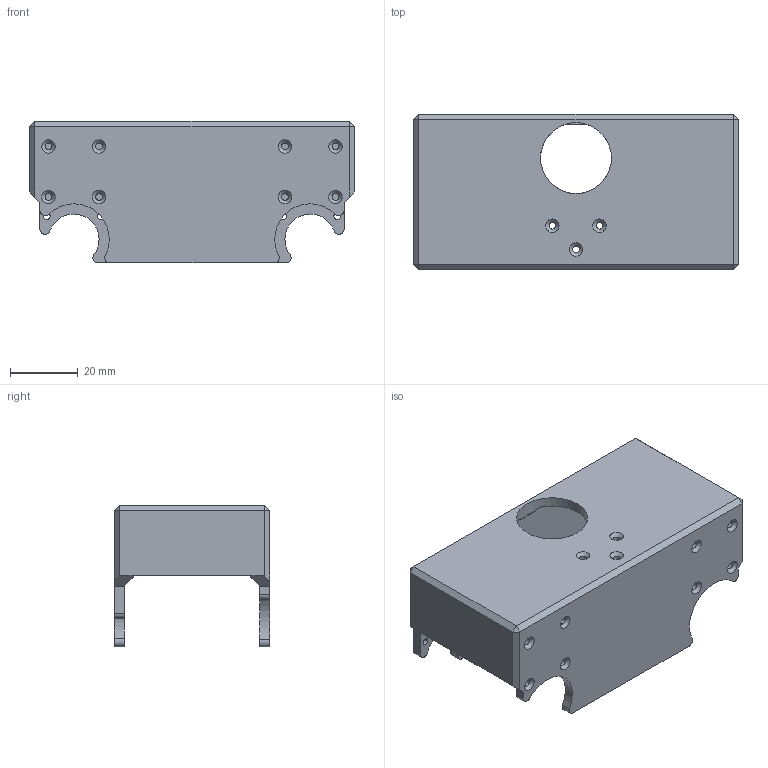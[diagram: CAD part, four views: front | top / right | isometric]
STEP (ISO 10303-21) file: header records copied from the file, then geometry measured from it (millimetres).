
FILE_DESCRIPTION(/* description */ (''),/* implementation_level */ '2;1');
FILE_NAME(/* name */ 'E:/云同步/我的坚果云/项目/SERVO DRIVER WITH ESP32/模型/F v7.step',/* time_stamp */ '2022-01-21T19:20:10+08:00',/* author */ (''),/* organization */ (''),/* preprocessor_version */ 'ST-DEVELOPER v18.1',/* originating_system */ 'Autodesk Translation Framework v10.10.0.1391',/* authorisation */ '');
FILE_SCHEMA (('AUTOMOTIVE_DESIGN { 1 0 10303 214 3 1 1 }'));
Length unit declared in the file: millimetre
Products named in the file (1): F
Bounding box: 96 x 46 x 42 mm (x, y, z)
Volume: 34516.7 mm3; surface area: 24576.7 mm2
Topology: 1 solids, 1 shells, 99 faces, 255 edges, 157 vertices
Faces by surface type: plane 44, cylinder 34, cone 21
Full cylindrical faces by diameter (mm): 1.98 x7, 2 x14, 21 x1
Entity records: 3102 total; most frequent: DIRECTION 550, CARTESIAN_POINT 512, ORIENTED_EDGE 510, EDGE_CURVE 255, AXIS2_PLACEMENT_3D 195, LINE 160, VECTOR 160, VERTEX_POINT 157
